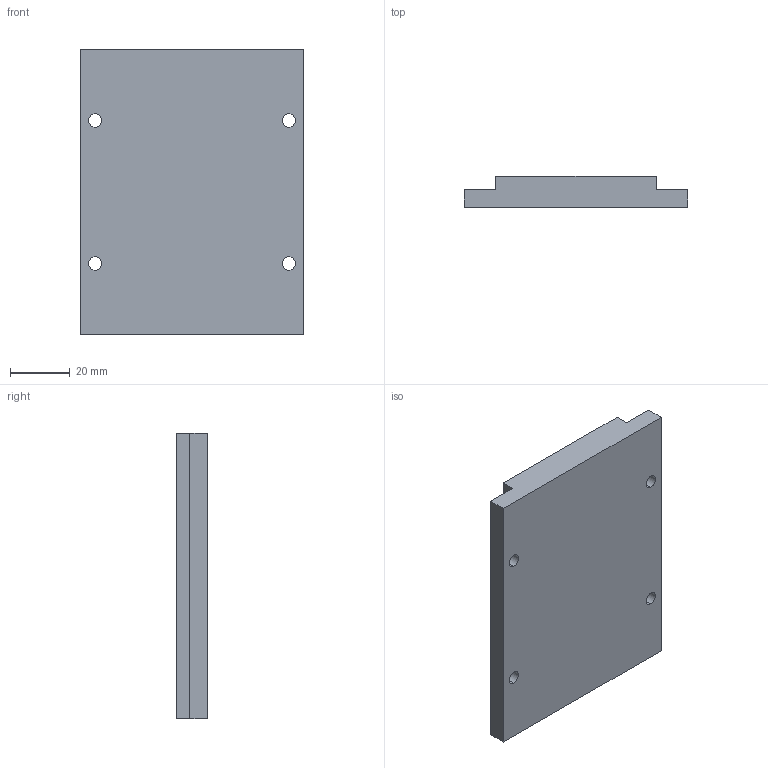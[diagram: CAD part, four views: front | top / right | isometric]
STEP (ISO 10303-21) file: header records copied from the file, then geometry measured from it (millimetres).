
FILE_DESCRIPTION (( 'STEP AP214' ), '1' );
FILE_NAME ('TLT-75-L96.STEP', '2022-04-13T09:13:20', ( 'Microsoft' ), ( 'Microsoft' ), 'SwSTEP 2.0', 'SolidWorks 2016', '' );
FILE_SCHEMA (( 'AUTOMOTIVE_DESIGN' ));
Length unit declared in the file: millimetre
Products named in the file (1): TLT-75-L96
Bounding box: 75 x 10.5 x 96 mm (x, y, z)
Volume: 66146.3 mm3; surface area: 18014.1 mm2
Topology: 1 solids, 1 shells, 18 faces, 48 edges, 32 vertices
Faces by surface type: plane 10, cylinder 8
Entity records: 618 total; most frequent: DIRECTION 102, CARTESIAN_POINT 99, ORIENTED_EDGE 96, EDGE_CURVE 48, AXIS2_PLACEMENT_3D 35, VECTOR 32, VERTEX_POINT 32, LINE 32
